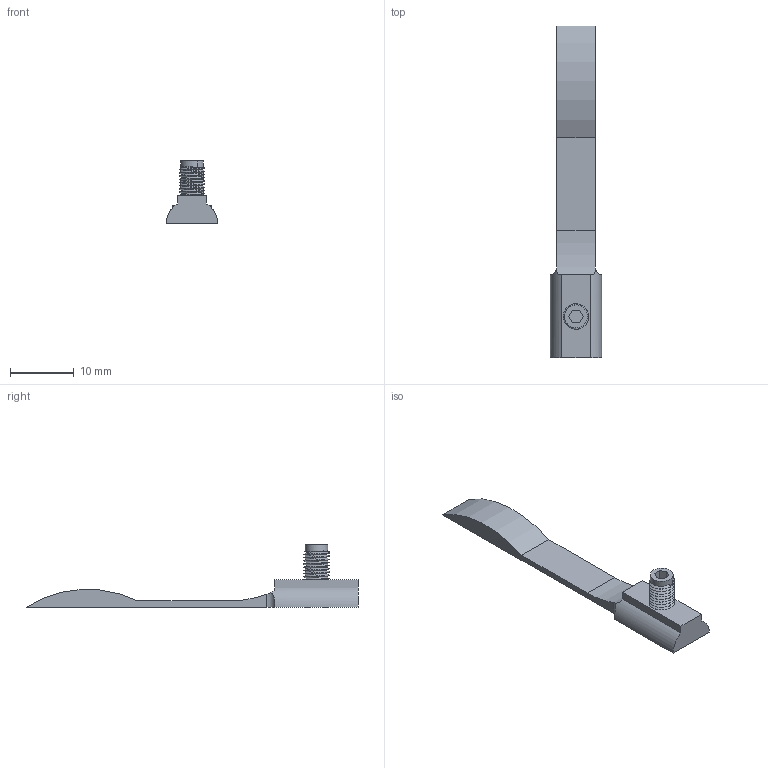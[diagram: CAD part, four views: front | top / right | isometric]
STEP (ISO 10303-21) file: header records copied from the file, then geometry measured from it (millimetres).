
FILE_DESCRIPTION(('CATIA V5 STEP'),'2;1');
FILE_NAME('C:\Users\pati2\Documents\Stardock\Rendering SL 16 + for the latest DIY catalog_Jule Fiedler_26-08-2020\SlideLine 16plus\STB new\STB new_AI\Botton rail stopper.stp','2021-09-23T08:31:46+00:00',('none'),('none'),'CATIA Version 5-6 Release 2017 SP5','CATIA V5 STEP AP203','none');
FILE_SCHEMA(('CONFIG_CONTROL_DESIGN'));
Length unit declared in the file: millimetre
Products named in the file (1): Product8
Assembly tree (2 placements, depth 2):
  Product8
    #57
    #614
Bounding box: 8 x 52 x 9.77 mm (x, y, z)
Volume: 728.7 mm3; surface area: 1106.2 mm2
Topology: 2 solids, 2 shells, 90 faces, 235 edges, 151 vertices
Faces by surface type: bspline 38, cylinder 31, plane 21
Entity records: 3897 total; most frequent: CARTESIAN_POINT 2088, ORIENTED_EDGE 470, EDGE_CURVE 235, DIRECTION 164, VERTEX_POINT 150, B_SPLINE_CURVE_WITH_KNOTS 141, EDGE_LOOP 93, ADVANCED_FACE 90
